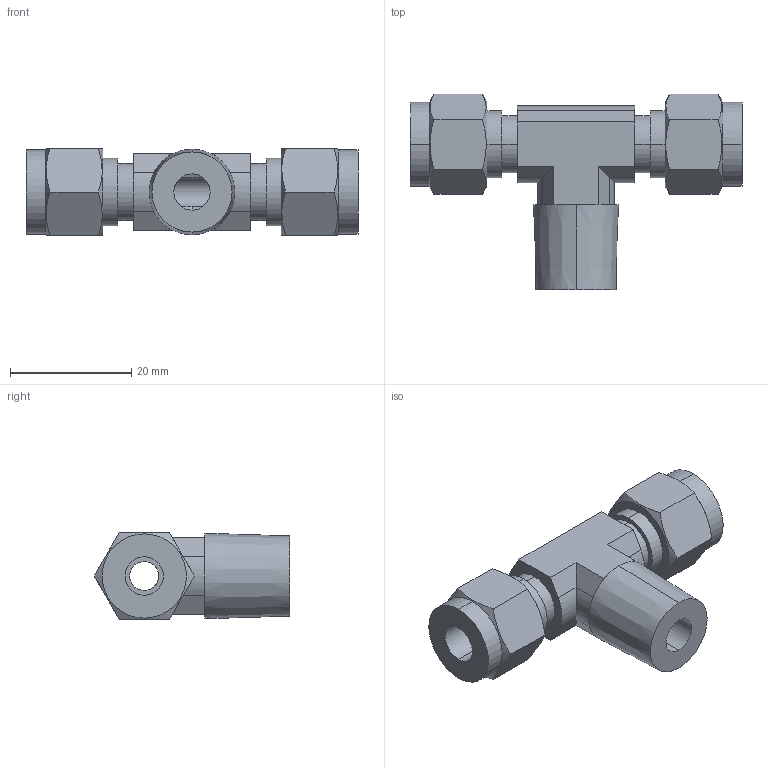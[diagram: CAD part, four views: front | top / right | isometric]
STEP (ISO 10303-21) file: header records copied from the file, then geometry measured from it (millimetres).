
FILE_DESCRIPTION (( 'STEP AP203' ), '1' );
FILE_NAME ('DTN 04-04 SS.STEP', '2009-09-08T10:09:19', ( 'Your User Name' ), ( 'Your Company Name' ), 'SwSTEP 2.0', 'SolidWorks 2008', '' );
FILE_SCHEMA (( 'CONFIG_CONTROL_DESIGN' ));
Length unit declared in the file: millimetre
Products named in the file (1): DTN 04-04 SS
Bounding box: 54.8 x 32.25 x 14.29 mm (x, y, z)
Volume: 8394.7 mm3; surface area: 5164.2 mm2
Topology: 1 solids, 1 shells, 82 faces, 198 edges, 125 vertices
Faces by surface type: plane 43, cylinder 26, cone 13
Entity records: 2722 total; most frequent: CARTESIAN_POINT 745, ORIENTED_EDGE 396, DIRECTION 389, EDGE_CURVE 198, AXIS2_PLACEMENT_3D 147, VERTEX_POINT 125, VECTOR 95, LINE 95
